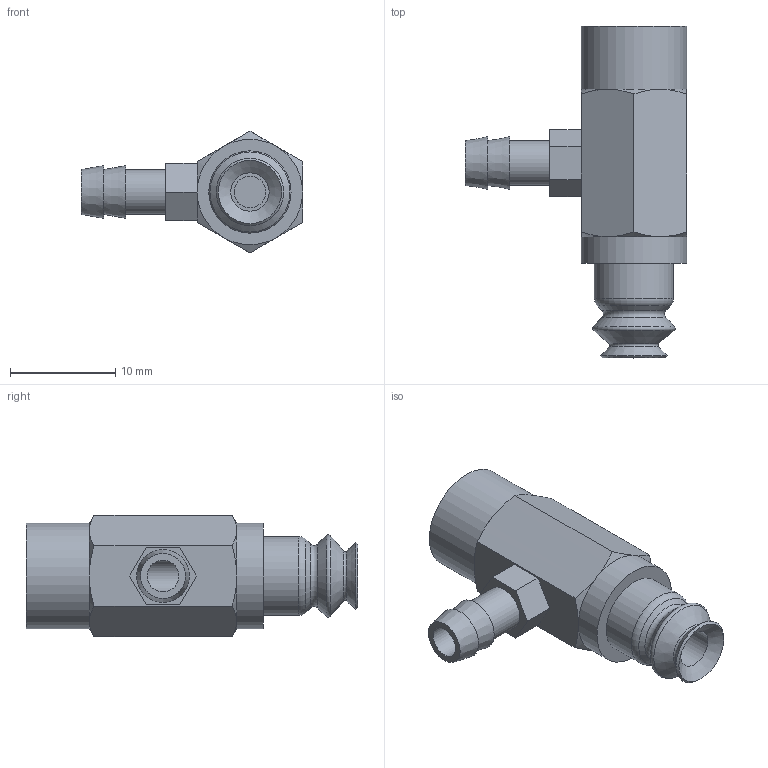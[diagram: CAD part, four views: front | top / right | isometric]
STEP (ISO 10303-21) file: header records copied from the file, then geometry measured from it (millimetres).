
FILE_DESCRIPTION(('STEP AP203'),'1');
FILE_NAME('.stp','2025-04-23T02:33:33',(' '),(' '),'Spatial InterOp 3D',' ',' ');
FILE_SCHEMA(('CONFIG_CONTROL_DESIGN'));
Length unit declared in the file: millimetre
Products named in the file (3): BBPJYK-6-※; PJYK-6; BPJG-6-※
Assembly tree (2 placements, depth 2):
  BBPJYK-6-※
    PJYK-6
    BPJG-6-※
Bounding box: 21 x 31.5 x 11.55 mm (x, y, z)
Volume: 2048.8 mm3; surface area: 1978.3 mm2
Topology: 2 solids, 2 shells, 75 faces, 163 edges, 99 vertices
Faces by surface type: plane 26, cone 24, cylinder 14, torus 11
Full cylindrical faces by diameter (mm): 3 x2, 3.242 x1, 3.64 x1, 4 x2, 4.26 x1, 5 x1, 6 x2, 7.5 x1, 10 x2
Entity records: 2082 total; most frequent: CARTESIAN_POINT 546, DIRECTION 298, ORIENTED_EDGE 224, AXIS2_PLACEMENT_3D 136, EDGE_LOOP 121, EDGE_CURVE 112, FACE_OUTER_BOUND 98, VERTEX_POINT 86
